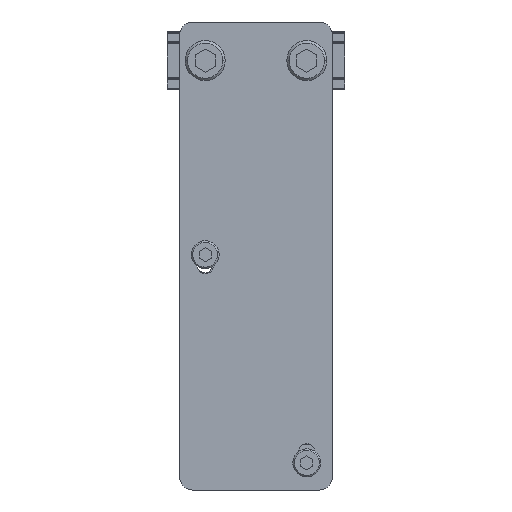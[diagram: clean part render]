
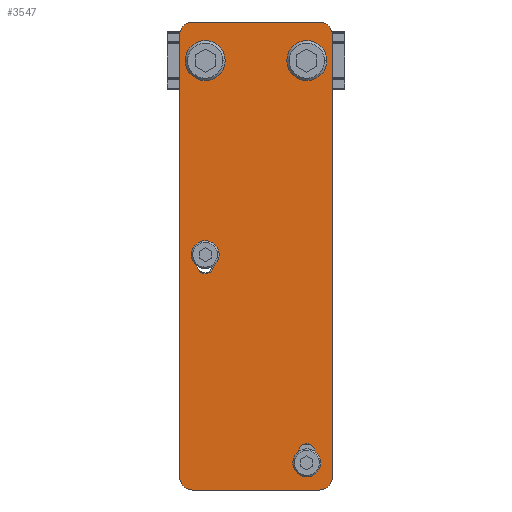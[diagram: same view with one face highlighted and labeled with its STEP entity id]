
A CAD part, front view. The second image highlights one B-rep face of the part: STEP entity #3547.
In plain terms, the highlighted planar face has unit normal (0, -1, 0) as drawn and (0, 0, 1) by its records, which use the part's own axes.
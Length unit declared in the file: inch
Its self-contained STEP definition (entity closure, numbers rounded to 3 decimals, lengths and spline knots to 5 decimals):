
#3166=CARTESIAN_POINT('',(-0.5,0.,0.179));
#3167=DIRECTION('',(0.,0.,1.));
#3168=DIRECTION('',(1.,0.,0.));
#3169=AXIS2_PLACEMENT_3D('',#3166,#3167,#3168);
#3171=CARTESIAN_POINT('',(-0.5,0.,0.179));
#3172=DIRECTION('',(0.,0.,1.));
#3173=DIRECTION('',(-1.,0.,0.));
#3174=AXIS2_PLACEMENT_3D('',#3171,#3172,#3173);
#3176=DIRECTION('',(0.,-1.,0.));
#3177=VECTOR('',#3176,0.11);
#3178=CARTESIAN_POINT('',(-0.579,3.9585,0.179));
#3179=LINE('',#3178,#3177);
#3180=CARTESIAN_POINT('',(-0.5,3.8485,0.179));
#3181=DIRECTION('',(0.,0.,1.));
#3182=DIRECTION('',(-1.,0.,0.));
#3183=AXIS2_PLACEMENT_3D('',#3180,#3181,#3182);
#3185=DIRECTION('',(0.,1.,0.));
#3186=VECTOR('',#3185,0.11);
#3187=CARTESIAN_POINT('',(-0.421,3.8485,0.179));
#3188=LINE('',#3187,#3186);
#3189=CARTESIAN_POINT('',(-0.5,3.9585,0.179));
#3190=DIRECTION('',(0.,0.,1.));
#3191=DIRECTION('',(1.,0.,0.));
#3192=AXIS2_PLACEMENT_3D('',#3189,#3190,#3191);
#3194=CARTESIAN_POINT('',(0.5,0.,0.179));
#3195=DIRECTION('',(0.,0.,1.));
#3196=DIRECTION('',(1.,0.,0.));
#3197=AXIS2_PLACEMENT_3D('',#3194,#3195,#3196);
#3199=CARTESIAN_POINT('',(0.5,0.,0.179));
#3200=DIRECTION('',(0.,0.,1.));
#3201=DIRECTION('',(-1.,0.,0.));
#3202=AXIS2_PLACEMENT_3D('',#3199,#3200,#3201);
#3204=DIRECTION('',(0.,-1.,0.));
#3205=VECTOR('',#3204,0.11);
#3206=CARTESIAN_POINT('',(0.421,2.0205,0.179));
#3207=LINE('',#3206,#3205);
#3208=CARTESIAN_POINT('',(0.5,1.9105,0.179));
#3209=DIRECTION('',(0.,0.,1.));
#3210=DIRECTION('',(-1.,0.,0.));
#3211=AXIS2_PLACEMENT_3D('',#3208,#3209,#3210);
#3213=DIRECTION('',(0.,1.,0.));
#3214=VECTOR('',#3213,0.11);
#3215=CARTESIAN_POINT('',(0.579,1.9105,0.179));
#3216=LINE('',#3215,#3214);
#3217=CARTESIAN_POINT('',(0.5,2.0205,0.179));
#3218=DIRECTION('',(0.,0.,1.));
#3219=DIRECTION('',(1.,0.,0.));
#3220=AXIS2_PLACEMENT_3D('',#3217,#3218,#3219);
#3222=CARTESIAN_POINT('',(0.625,4.1005,0.179));
#3223=DIRECTION('',(0.,0.,1.));
#3224=DIRECTION('',(1.,0.,0.));
#3225=AXIS2_PLACEMENT_3D('',#3222,#3223,#3224);
#3227=DIRECTION('',(0.,1.,0.));
#3228=VECTOR('',#3227,4.3555);
#3229=CARTESIAN_POINT('',(0.75,-0.255,0.179));
#3230=LINE('',#3229,#3228);
#3231=CARTESIAN_POINT('',(0.625,-0.255,0.179));
#3232=DIRECTION('',(0.,0.,1.));
#3233=DIRECTION('',(0.,-1.,0.));
#3234=AXIS2_PLACEMENT_3D('',#3231,#3232,#3233);
#3236=DIRECTION('',(1.,0.,0.));
#3237=VECTOR('',#3236,1.25);
#3238=CARTESIAN_POINT('',(-0.625,-0.38,0.179));
#3239=LINE('',#3238,#3237);
#3240=CARTESIAN_POINT('',(-0.625,-0.255,0.179));
#3241=DIRECTION('',(0.,0.,1.));
#3242=DIRECTION('',(-1.,0.,0.));
#3243=AXIS2_PLACEMENT_3D('',#3240,#3241,#3242);
#3245=DIRECTION('',(0.,-1.,0.));
#3246=VECTOR('',#3245,4.3555);
#3247=CARTESIAN_POINT('',(-0.75,4.1005,0.179));
#3248=LINE('',#3247,#3246);
#3249=CARTESIAN_POINT('',(-0.625,4.1005,0.179));
#3250=DIRECTION('',(0.,0.,1.));
#3251=DIRECTION('',(0.,1.,0.));
#3252=AXIS2_PLACEMENT_3D('',#3249,#3250,#3251);
#3254=DIRECTION('',(-1.,0.,0.));
#3255=VECTOR('',#3254,1.25);
#3256=CARTESIAN_POINT('',(0.625,4.2255,0.179));
#3257=LINE('',#3256,#3255);
#3334=CARTESIAN_POINT('',(-0.375,0.,0.179));
#3335=CARTESIAN_POINT('',(-0.625,0.,0.179));
#3336=VERTEX_POINT('',#3334);
#3337=VERTEX_POINT('',#3335);
#3346=CARTESIAN_POINT('',(-0.579,3.9585,0.179));
#3347=CARTESIAN_POINT('',(-0.579,3.8485,0.179));
#3348=VERTEX_POINT('',#3346);
#3349=VERTEX_POINT('',#3347);
#3350=CARTESIAN_POINT('',(-0.421,3.8485,0.179));
#3351=VERTEX_POINT('',#3350);
#3352=CARTESIAN_POINT('',(-0.421,3.9585,0.179));
#3353=VERTEX_POINT('',#3352);
#3366=CARTESIAN_POINT('',(0.625,0.,0.179));
#3367=CARTESIAN_POINT('',(0.375,0.,0.179));
#3368=VERTEX_POINT('',#3366);
#3369=VERTEX_POINT('',#3367);
#3370=CARTESIAN_POINT('',(0.421,2.0205,0.179));
#3371=CARTESIAN_POINT('',(0.421,1.9105,0.179));
#3372=VERTEX_POINT('',#3370);
#3373=VERTEX_POINT('',#3371);
#3374=CARTESIAN_POINT('',(0.579,1.9105,0.179));
#3375=VERTEX_POINT('',#3374);
#3376=CARTESIAN_POINT('',(0.579,2.0205,0.179));
#3377=VERTEX_POINT('',#3376);
#3382=CARTESIAN_POINT('',(0.75,4.1005,0.179));
#3383=VERTEX_POINT('',#3382);
#3384=CARTESIAN_POINT('',(0.625,4.2255,0.179));
#3385=VERTEX_POINT('',#3384);
#3390=CARTESIAN_POINT('',(-0.625,4.2255,0.179));
#3391=VERTEX_POINT('',#3390);
#3392=CARTESIAN_POINT('',(-0.75,4.1005,0.179));
#3393=VERTEX_POINT('',#3392);
#3398=CARTESIAN_POINT('',(-0.75,-0.255,0.179));
#3399=VERTEX_POINT('',#3398);
#3400=CARTESIAN_POINT('',(-0.625,-0.38,0.179));
#3401=VERTEX_POINT('',#3400);
#3406=CARTESIAN_POINT('',(0.625,-0.38,0.179));
#3407=VERTEX_POINT('',#3406);
#3408=CARTESIAN_POINT('',(0.75,-0.255,0.179));
#3409=VERTEX_POINT('',#3408);
#3494=CARTESIAN_POINT('',(0.,0.,0.179));
#3495=DIRECTION('',(0.,0.,1.));
#3496=DIRECTION('',(1.,0.,0.));
#3497=AXIS2_PLACEMENT_3D('',#3494,#3495,#3496);
#3498=PLANE('',#3497);
#3500=ORIENTED_EDGE('',*,*,#3499,.F.);
#3502=ORIENTED_EDGE('',*,*,#3501,.F.);
#3504=ORIENTED_EDGE('',*,*,#3503,.F.);
#3506=ORIENTED_EDGE('',*,*,#3505,.F.);
#3508=ORIENTED_EDGE('',*,*,#3507,.F.);
#3510=ORIENTED_EDGE('',*,*,#3509,.F.);
#3512=ORIENTED_EDGE('',*,*,#3511,.F.);
#3514=ORIENTED_EDGE('',*,*,#3513,.F.);
#3515=EDGE_LOOP('',(#3500,#3502,#3504,#3506,#3508,#3510,#3512,#3514));
#3516=FACE_OUTER_BOUND('',#3515,.F.);
#3518=ORIENTED_EDGE('',*,*,#3517,.T.);
#3520=ORIENTED_EDGE('',*,*,#3519,.T.);
#3522=ORIENTED_EDGE('',*,*,#3521,.T.);
#3524=ORIENTED_EDGE('',*,*,#3523,.T.);
#3525=EDGE_LOOP('',(#3518,#3520,#3522,#3524));
#3526=FACE_BOUND('',#3525,.F.);
#3528=ORIENTED_EDGE('',*,*,#3527,.T.);
#3530=ORIENTED_EDGE('',*,*,#3529,.T.);
#3531=EDGE_LOOP('',(#3528,#3530));
#3532=FACE_BOUND('',#3531,.F.);
#3534=ORIENTED_EDGE('',*,*,#3533,.T.);
#3536=ORIENTED_EDGE('',*,*,#3535,.T.);
#3538=ORIENTED_EDGE('',*,*,#3537,.T.);
#3540=ORIENTED_EDGE('',*,*,#3539,.T.);
#3541=EDGE_LOOP('',(#3534,#3536,#3538,#3540));
#3542=FACE_BOUND('',#3541,.F.);
#3543=ORIENTED_EDGE('',*,*,#3474,.T.);
#3544=ORIENTED_EDGE('',*,*,#3488,.T.);
#3545=EDGE_LOOP('',(#3543,#3544));
#3546=FACE_BOUND('',#3545,.F.);
#3170=CIRCLE('',#3169,0.125);
#3175=CIRCLE('',#3174,0.125);
#3184=CIRCLE('',#3183,0.079);
#3193=CIRCLE('',#3192,0.079);
#3198=CIRCLE('',#3197,0.125);
#3203=CIRCLE('',#3202,0.125);
#3212=CIRCLE('',#3211,0.079);
#3221=CIRCLE('',#3220,0.079);
#3226=CIRCLE('',#3225,0.125);
#3235=CIRCLE('',#3234,0.125);
#3244=CIRCLE('',#3243,0.125);
#3253=CIRCLE('',#3252,0.125);
#3474=EDGE_CURVE('',#3336,#3337,#3170,.T.);
#3488=EDGE_CURVE('',#3337,#3336,#3175,.T.);
#3499=EDGE_CURVE('',#3383,#3385,#3226,.T.);
#3501=EDGE_CURVE('',#3409,#3383,#3230,.T.);
#3503=EDGE_CURVE('',#3407,#3409,#3235,.T.);
#3505=EDGE_CURVE('',#3401,#3407,#3239,.T.);
#3507=EDGE_CURVE('',#3399,#3401,#3244,.T.);
#3509=EDGE_CURVE('',#3393,#3399,#3248,.T.);
#3511=EDGE_CURVE('',#3391,#3393,#3253,.T.);
#3513=EDGE_CURVE('',#3385,#3391,#3257,.T.);
#3517=EDGE_CURVE('',#3348,#3349,#3179,.T.);
#3519=EDGE_CURVE('',#3349,#3351,#3184,.T.);
#3521=EDGE_CURVE('',#3351,#3353,#3188,.T.);
#3523=EDGE_CURVE('',#3353,#3348,#3193,.T.);
#3527=EDGE_CURVE('',#3368,#3369,#3198,.T.);
#3529=EDGE_CURVE('',#3369,#3368,#3203,.T.);
#3533=EDGE_CURVE('',#3372,#3373,#3207,.T.);
#3535=EDGE_CURVE('',#3373,#3375,#3212,.T.);
#3537=EDGE_CURVE('',#3375,#3377,#3216,.T.);
#3539=EDGE_CURVE('',#3377,#3372,#3221,.T.);
#3547=ADVANCED_FACE('',(#3516,#3526,#3532,#3542,#3546),#3498,.T.);
